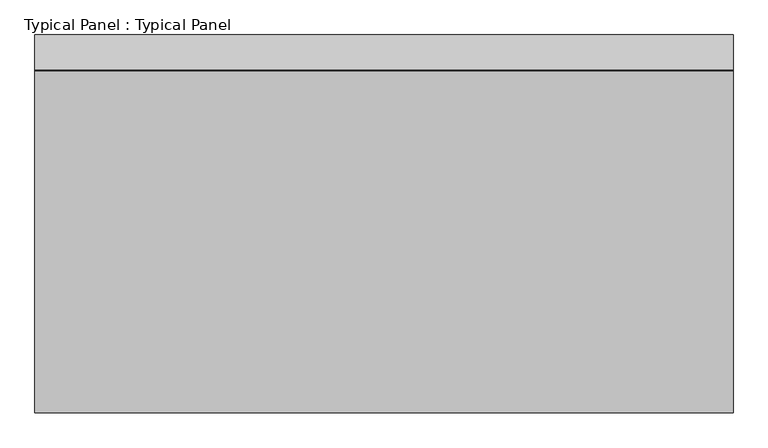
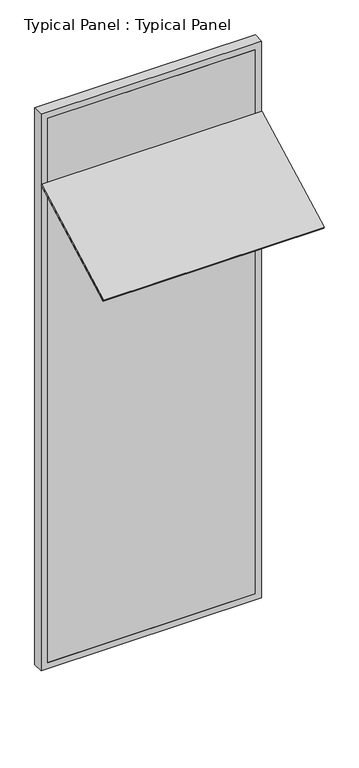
"""IFC4 building model written with IfcOpenShell, lengths in millimetres: plate geometry, Typical Panel : Typical Panel."""

from ifc_helpers import new_model, si_unit, frame, origin, place, context, project, spatial, polyline, outline, extrude, source, transform, mapped, element, save


def typical_panel_typical_panel_321f3c24(model_context):
    return source(origin(), model_context, "Body", "SweptSolid", [
        extrude(outline(polyline([(0.0, -829.9999999), (0.0, 0.0), (1500.0, 0.0), (1500.0, -829.9999999), (0.0, -829.9999999)])), frame((750.0, -733.1517864, 3101.509127), z_axis=(0.0, -0.4694715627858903, 0.8829475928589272), x_axis=(-1.0, 0.0, 0.0)), (0.0, 0.0, 1.0), 10.0),
        extrude(outline(polyline([(0.0, -750.0), (0.0, 750.0), (4000.0, 750.0), (4000.0, -750.0), (0.0, -750.0)]), holes=[polyline([(45.0, 705.0), (45.0, -705.0), (3955.0, -705.0), (3955.0, 705.0), (45.0, 705.0)])]), frame((0.0, -1.5797986, 0.0), z_axis=(0.0, 1.0, 0.0), x_axis=(0.0, 0.0, 1.0)), (0.0, 0.0, 1.0), 75.0),
        extrude(outline(polyline([(705.0, -1.5797986), (-705.0, -1.5797986), (-705.0, 13.4202014), (705.0, 13.4202014), (705.0, -1.5797986)])), frame((0.0, 0.0, 45.0), z_axis=(0.0, 0.0, 1.0), x_axis=(1.0, 0.0, 0.0)), (0.0, 0.0, 1.0), 3910.0),
    ])


if __name__ == "__main__":
    model = new_model("IFC4")
    model_context = context("Model", 3, world=origin())
    ifc_project = project(units=[si_unit("LENGTHUNIT", "METRE", prefix="MILLI")], contexts=[model_context])
    site = spatial("IfcSite", under=ifc_project)
    building = spatial("IfcBuilding", under=site)
    placement = place(None, origin())
    typical_panel_typical_panel_shape = typical_panel_typical_panel_321f3c24(model_context)
    element("IfcPlate", 1, ObjectType="Typical Panel : Typical Panel", at=placement, inside=building, context=model_context, shape_type="MappedRepresentation", body=[
        mapped(typical_panel_typical_panel_shape, transform((0.0, 0.0, 0.0), x_axis=(1.0, 0.0, 0.0), y_axis=(0.0, 1.0, 0.0), z_axis=(0.0, 0.0, 1.0))),
    ])
    save(model, "model.ifc")
